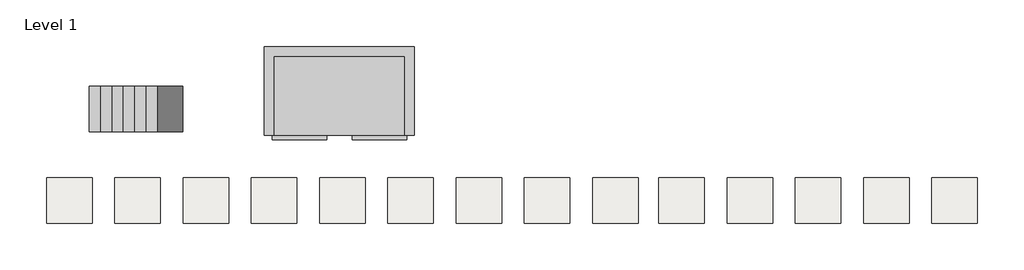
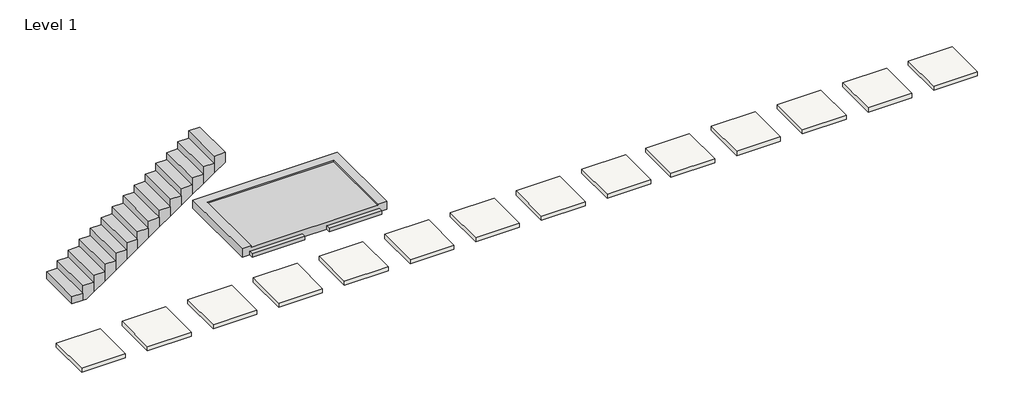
# One storey: 14 slabs, 1 proxy, 1 stair flight.
"""IFC4 building model written with IfcOpenShell, lengths in millimetres."""

from ifc_helpers import new_model, si_unit, frame, origin, place, context, project, spatial, polyline, outline, extrude, faceted_brep, transform, mapped, element, save
from components import proxy_300_24_isr_concrete_platform_double_platform_9cdc8692

model = new_model("IFC4")

# Units and contexts
model_context = context("Model", 3, world=origin())
ifc_project = project(units=[si_unit("LENGTHUNIT", "METRE", prefix="MILLI")], contexts=[model_context])

# Site, building, storey
site = spatial("IfcSite", under=ifc_project)
building = spatial("IfcBuilding", under=site)
storey = spatial("IfcBuildingStorey", under=building, Name="Level 1", Elevation=0.0)

# Proxy
placement = place(None, origin())
proxy_300_24_isr_concrete_platform_double_platform_shape = proxy_300_24_isr_concrete_platform_double_platform_9cdc8692(model_context)
element("IfcBuildingElementProxy", 1, Name="300_24_ISR_concrete_platform : double platform", ObjectType="300_24_ISR_concrete_platform : double platform", at=placement, inside=storey, context=model_context, shape_type="MappedRepresentation", body=[
    mapped(proxy_300_24_isr_concrete_platform_double_platform_shape, transform((-652.5441241, 2827.5413771, 0.0), x_axis=(1.0, 0.0, 0.0), y_axis=(0.0, 1.0, 0.0), z_axis=(0.0, 0.0, 1.0))),
])

# Slabs
element("IfcSlab", 2, ObjectType="Generic 100mm", at=placement, inside=storey, context=model_context, shape_type="SweptSolid", body=[
    extrude(outline(polyline([(-3088.5953778, 89.4387512), (-3088.5953778, -910.5612488), (-4088.5953778, -910.5612488), (-4088.5953778, 89.4387512), (-3088.5953778, 89.4387512)])), frame((0.0, 0.0, -100.0), z_axis=(0.0, 0.0, 1.0), x_axis=(1.0, 0.0, 0.0)), (0.0, 0.0, 1.0), 100.0),
])
element("IfcSlab", 3, ObjectType="Generic 100mm", at=placement, inside=storey, context=model_context, shape_type="SweptSolid", body=[
    extrude(outline(polyline([(-1588.5953778, 89.4387512), (-1588.5953778, -910.5612488), (-2588.5953778, -910.5612488), (-2588.5953778, 89.4387512), (-1588.5953778, 89.4387512)])), frame((0.0, 0.0, -100.0), z_axis=(0.0, 0.0, 1.0), x_axis=(1.0, 0.0, 0.0)), (0.0, 0.0, 1.0), 100.0),
])
element("IfcSlab", 4, ObjectType="Generic 100mm", at=placement, inside=storey, context=model_context, shape_type="SweptSolid", body=[
    extrude(outline(polyline([(-88.5953778, 89.4387512), (-88.5953778, -910.5612488), (-1088.5953778, -910.5612488), (-1088.5953778, 89.4387512), (-88.5953778, 89.4387512)])), frame((0.0, 0.0, -100.0), z_axis=(0.0, 0.0, 1.0), x_axis=(1.0, 0.0, 0.0)), (0.0, 0.0, 1.0), 100.0),
])
element("IfcSlab", 5, ObjectType="Generic 100mm", at=placement, inside=storey, context=model_context, shape_type="SweptSolid", body=[
    extrude(outline(polyline([(1411.4046222, 89.4387512), (1411.4046222, -910.5612488), (411.4046222, -910.5612488), (411.4046222, 89.4387512), (1411.4046222, 89.4387512)])), frame((0.0, 0.0, -100.0), z_axis=(0.0, 0.0, 1.0), x_axis=(1.0, 0.0, 0.0)), (0.0, 0.0, 1.0), 100.0),
])
element("IfcSlab", 6, ObjectType="Generic 100mm", at=placement, inside=storey, context=model_context, shape_type="SweptSolid", body=[
    extrude(outline(polyline([(2911.4046222, 89.4387512), (2911.4046222, -910.5612488), (1911.4046222, -910.5612488), (1911.4046222, 89.4387512), (2911.4046222, 89.4387512)])), frame((0.0, 0.0, -100.0), z_axis=(0.0, 0.0, 1.0), x_axis=(1.0, 0.0, 0.0)), (0.0, 0.0, 1.0), 100.0),
])
element("IfcSlab", 7, ObjectType="Generic 100mm", at=placement, inside=storey, context=model_context, shape_type="SweptSolid", body=[
    extrude(outline(polyline([(4411.4046222, 89.4387512), (4411.4046222, -910.5612488), (3411.4046222, -910.5612488), (3411.4046222, 89.4387512), (4411.4046222, 89.4387512)])), frame((0.0, 0.0, -100.0), z_axis=(0.0, 0.0, 1.0), x_axis=(1.0, 0.0, 0.0)), (0.0, 0.0, 1.0), 100.0),
])
element("IfcSlab", 8, ObjectType="Generic 100mm", at=placement, inside=storey, context=model_context, shape_type="SweptSolid", body=[
    extrude(outline(polyline([(5911.4046222, 89.4387512), (5911.4046222, -910.5612488), (4911.4046222, -910.5612488), (4911.4046222, 89.4387512), (5911.4046222, 89.4387512)])), frame((0.0, 0.0, -100.0), z_axis=(0.0, 0.0, 1.0), x_axis=(1.0, 0.0, 0.0)), (0.0, 0.0, 1.0), 100.0),
])
element("IfcSlab", 9, ObjectType="Generic 100mm", at=placement, inside=storey, context=model_context, shape_type="SweptSolid", body=[
    extrude(outline(polyline([(7411.4046222, 89.4387512), (7411.4046222, -910.5612488), (6411.4046222, -910.5612488), (6411.4046222, 89.4387512), (7411.4046222, 89.4387512)])), frame((0.0, 0.0, -100.0), z_axis=(0.0, 0.0, 1.0), x_axis=(1.0, 0.0, 0.0)), (0.0, 0.0, 1.0), 100.0),
])
element("IfcSlab", 10, ObjectType="Generic 100mm", at=placement, inside=storey, context=model_context, shape_type="SweptSolid", body=[
    extrude(outline(polyline([(-4588.5953778, 89.4387512), (-4588.5953778, -910.5612488), (-5588.5953778, -910.5612488), (-5588.5953778, 89.4387512), (-4588.5953778, 89.4387512)])), frame((0.0, 0.0, -100.0), z_axis=(0.0, 0.0, 1.0), x_axis=(1.0, 0.0, 0.0)), (0.0, 0.0, 1.0), 100.0),
])
element("IfcSlab", 11, ObjectType="Generic 100mm", at=placement, inside=storey, context=model_context, shape_type="SweptSolid", body=[
    extrude(outline(polyline([(8871.4046222, 89.4387512), (8871.4046222, -910.5612488), (7871.4046222, -910.5612488), (7871.4046222, 89.4387512), (8871.4046222, 89.4387512)])), frame((0.0, 0.0, -100.0), z_axis=(0.0, 0.0, 1.0), x_axis=(1.0, 0.0, 0.0)), (0.0, 0.0, 1.0), 100.0),
])
element("IfcSlab", 12, ObjectType="Generic 100mm", at=placement, inside=storey, context=model_context, shape_type="SweptSolid", body=[
    extrude(outline(polyline([(10371.4046222, 89.4387512), (10371.4046222, -910.5612488), (9371.4046222, -910.5612488), (9371.4046222, 89.4387512), (10371.4046222, 89.4387512)])), frame((0.0, 0.0, -100.0), z_axis=(0.0, 0.0, 1.0), x_axis=(1.0, 0.0, 0.0)), (0.0, 0.0, 1.0), 100.0),
])
element("IfcSlab", 13, ObjectType="Generic 100mm", at=placement, inside=storey, context=model_context, shape_type="SweptSolid", body=[
    extrude(outline(polyline([(11871.4046222, 89.4387512), (11871.4046222, -910.5612488), (10871.4046222, -910.5612488), (10871.4046222, 89.4387512), (11871.4046222, 89.4387512)])), frame((0.0, 0.0, -100.0), z_axis=(0.0, 0.0, 1.0), x_axis=(1.0, 0.0, 0.0)), (0.0, 0.0, 1.0), 100.0),
])
element("IfcSlab", 14, ObjectType="Generic 100mm", at=placement, inside=storey, context=model_context, shape_type="SweptSolid", body=[
    extrude(outline(polyline([(13371.4046222, 89.4387512), (13371.4046222, -910.5612488), (12371.4046222, -910.5612488), (12371.4046222, 89.4387512), (13371.4046222, 89.4387512)])), frame((0.0, 0.0, -100.0), z_axis=(0.0, 0.0, 1.0), x_axis=(1.0, 0.0, 0.0)), (0.0, 0.0, 1.0), 100.0),
])
element("IfcSlab", 15, ObjectType="Generic 100mm", at=placement, inside=storey, context=model_context, shape_type="SweptSolid", body=[
    extrude(outline(polyline([(14871.4046222, 89.4387512), (14871.4046222, -910.5612488), (13871.4046222, -910.5612488), (13871.4046222, 89.4387512), (14871.4046222, 89.4387512)])), frame((0.0, 0.0, -100.0), z_axis=(0.0, 0.0, 1.0), x_axis=(1.0, 0.0, 0.0)), (0.0, 0.0, 1.0), 100.0),
])

# Stair flight
element("IfcStairFlight", 16, ObjectType="190mm Depth", at=placement, inside=storey, context=model_context, shape_type="Brep", body=[
    faceted_brep([(-4398.5953778, 2107.5413771, 173.9130435), (-4648.5953778, 2107.5413771, 173.9130435), (-4648.5953778, 1107.5413771, 173.9130435), (-4398.5953778, 1107.5413771, 173.9130435), (-4398.5953778, 2107.5413771, 0.0), (-4648.5953778, 2107.5413771, 0.0), (-4648.5953778, 1107.5413771, 0.0), (-4398.5953778, 1107.5413771, 0.0), (-4148.5953778, 2107.5413771, 347.826087), (-4398.5953778, 2107.5413771, 347.826087), (-4398.5953778, 1107.5413771, 347.826087), (-4148.5953778, 1107.5413771, 347.826087), (-4148.5953778, 2107.5413771, 116.3742706), (-4315.8833918, 2107.5413771, 0.0), (-4315.8833918, 1107.5413771, 0.0), (-4148.5953778, 1107.5413771, 116.3742706), (-3898.5953778, 2107.5413771, 521.7391304), (-4148.5953778, 2107.5413771, 521.7391304), (-4148.5953778, 1107.5413771, 521.7391304), (-3898.5953778, 1107.5413771, 521.7391304), (-3898.5953778, 2107.5413771, 290.2873141), (-3898.5953778, 1107.5413771, 290.2873141), (-3648.5953778, 2107.5413771, 695.6521739), (-3898.5953778, 2107.5413771, 695.6521739), (-3898.5953778, 1107.5413771, 695.6521739), (-3648.5953778, 1107.5413771, 695.6521739), (-3648.5953778, 2107.5413771, 464.2003576), (-3648.5953778, 1107.5413771, 464.2003576), (-3398.5953778, 2107.5413771, 869.5652174), (-3648.5953778, 2107.5413771, 869.5652174), (-3648.5953778, 1107.5413771, 869.5652174), (-3398.5953778, 1107.5413771, 869.5652174), (-3398.5953778, 2107.5413771, 638.113401), (-3398.5953778, 1107.5413771, 638.113401), (-3148.5953778, 2107.5413771, 1043.4782609), (-3398.5953778, 2107.5413771, 1043.4782609), (-3398.5953778, 1107.5413771, 1043.4782609), (-3148.5953778, 1107.5413771, 1043.4782609), (-3148.5953778, 2107.5413771, 812.0264445), (-3148.5953778, 1107.5413771, 812.0264445), (-2898.5953778, 2107.5413771, 1217.3913043), (-3148.5953778, 2107.5413771, 1217.3913043), (-3148.5953778, 1107.5413771, 1217.3913043), (-2898.5953778, 1107.5413771, 1217.3913043), (-2898.5953778, 2107.5413771, 985.939488), (-2898.5953778, 1107.5413771, 985.939488), (-2648.5953778, 2107.5413771, 1391.3043478), (-2898.5953778, 2107.5413771, 1391.3043478), (-2898.5953778, 1107.5413771, 1391.3043478), (-2648.5953778, 1107.5413771, 1391.3043478), (-2648.5953778, 2107.5413771, 1159.8525315), (-2648.5953778, 1107.5413771, 1159.8525315), (-2398.5953778, 2107.5413771, 1565.2173913), (-2648.5953778, 2107.5413771, 1565.2173913), (-2648.5953778, 1107.5413771, 1565.2173913), (-2398.5953778, 1107.5413771, 1565.2173913), (-2398.5953778, 2107.5413771, 1333.765575), (-2398.5953778, 1107.5413771, 1333.765575), (-2148.5953778, 2107.5413771, 1739.1304348), (-2398.5953778, 2107.5413771, 1739.1304348), (-2398.5953778, 1107.5413771, 1739.1304348), (-2148.5953778, 1107.5413771, 1739.1304348), (-2148.5953778, 2107.5413771, 1507.6786184), (-2148.5953778, 1107.5413771, 1507.6786184), (-1898.5953778, 2107.5413771, 1913.0434783), (-2148.5953778, 2107.5413771, 1913.0434783), (-2148.5953778, 1107.5413771, 1913.0434783), (-1898.5953778, 1107.5413771, 1913.0434783), (-1898.5953778, 2107.5413771, 1681.5916619), (-1898.5953778, 1107.5413771, 1681.5916619), (-1648.5953778, 2107.5413771, 2086.9565217), (-1898.5953778, 2107.5413771, 2086.9565217), (-1898.5953778, 1107.5413771, 2086.9565217), (-1648.5953778, 1107.5413771, 2086.9565217), (-1648.5953778, 2107.5413771, 1855.5047054), (-1648.5953778, 1107.5413771, 1855.5047054), (-1398.5953778, 2107.5413771, 2260.8695652), (-1648.5953778, 2107.5413771, 2260.8695652), (-1648.5953778, 1107.5413771, 2260.8695652), (-1398.5953778, 1107.5413771, 2260.8695652), (-1398.5953778, 2107.5413771, 2029.4177489), (-1398.5953778, 1107.5413771, 2029.4177489), (-1148.5953778, 2107.5413771, 2203.3307924), (-1148.5953778, 1107.5413771, 2203.3307924), (-1148.5953778, 2107.5413771, 2434.7826087), (-1398.5953778, 2107.5413771, 2434.7826087), (-1398.5953778, 1107.5413771, 2434.7826087), (-1148.5953778, 1107.5413771, 2434.7826087)], [[[0, 1, 2, 3]], [[1, 0, 4, 5]], [[2, 1, 5, 6]], [[3, 2, 6, 7]], [[8, 9, 10, 11]], [[4, 0, 9, 8, 12, 13]], [[0, 3, 10, 9]], [[3, 7, 14, 15, 11, 10]], [[16, 17, 18, 19]], [[17, 16, 20, 12, 8]], [[8, 11, 18, 17]], [[19, 18, 11, 15, 21]], [[22, 23, 24, 25]], [[23, 22, 26, 20, 16]], [[16, 19, 24, 23]], [[25, 24, 19, 21, 27]], [[28, 29, 30, 31]], [[29, 28, 32, 26, 22]], [[22, 25, 30, 29]], [[31, 30, 25, 27, 33]], [[34, 35, 36, 37]], [[35, 34, 38, 32, 28]], [[28, 31, 36, 35]], [[37, 36, 31, 33, 39]], [[40, 41, 42, 43]], [[41, 40, 44, 38, 34]], [[34, 37, 42, 41]], [[43, 42, 37, 39, 45]], [[46, 47, 48, 49]], [[47, 46, 50, 44, 40]], [[40, 43, 48, 47]], [[49, 48, 43, 45, 51]], [[52, 53, 54, 55]], [[53, 52, 56, 50, 46]], [[46, 49, 54, 53]], [[55, 54, 49, 51, 57]], [[58, 59, 60, 61]], [[59, 58, 62, 56, 52]], [[52, 55, 60, 59]], [[61, 60, 55, 57, 63]], [[64, 65, 66, 67]], [[65, 64, 68, 62, 58]], [[58, 61, 66, 65]], [[67, 66, 61, 63, 69]], [[70, 71, 72, 73]], [[71, 70, 74, 68, 64]], [[64, 67, 72, 71]], [[73, 72, 67, 69, 75]], [[76, 77, 78, 79]], [[77, 76, 80, 74, 70]], [[70, 73, 78, 77]], [[79, 78, 73, 75, 81]], [[5, 4, 13, 14, 7, 6]], [[14, 13, 12, 20, 26, 32, 38, 44, 50, 56, 62, 68, 74, 80, 82, 83, 81, 75, 69, 63, 57, 51, 45, 39, 33, 27, 21, 15]], [[84, 85, 86, 87]], [[85, 84, 82, 80, 76]], [[76, 79, 86, 85]], [[87, 86, 79, 81, 83]], [[84, 87, 83, 82]]]),
])

save(model, "model.ifc")
